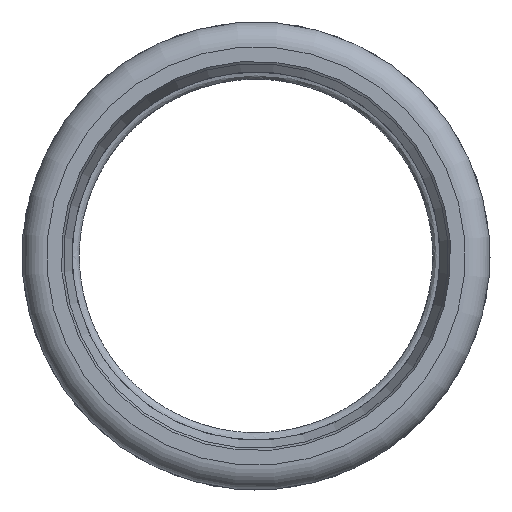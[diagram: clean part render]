
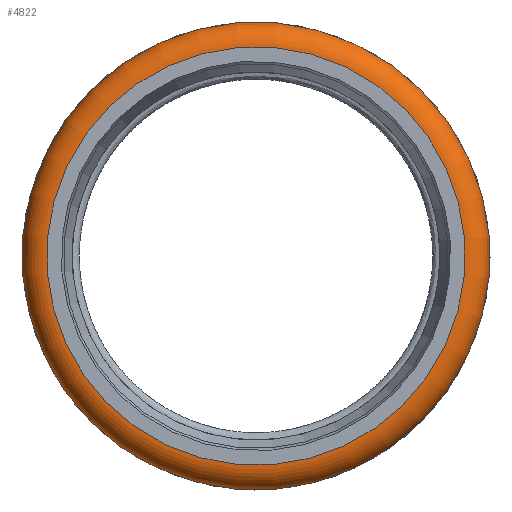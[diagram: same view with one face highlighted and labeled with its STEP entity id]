
A CAD part, left-side view. The second image highlights one B-rep face of the part: STEP entity #4822.
In plain terms, the highlighted toroidal (fillet/blend) face has major radius 59.1 mm and minor radius 7 mm.
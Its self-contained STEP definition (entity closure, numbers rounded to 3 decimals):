
#4736=CARTESIAN_POINT('',(-72.,64.462,0.0));
#4737=VERTEX_POINT('',#4736);
#4738=CARTESIAN_POINT('',(-72.,0.,0.0));
#4739=DIRECTION('',(1.0,0.0,0.0));
#4740=DIRECTION('',(0.0,1.0,0.0));
#4741=AXIS2_PLACEMENT_3D('',#4738,#4739,#4740);
#4742=CIRCLE('',#4741,64.462);
#4743=EDGE_CURVE('',#4737,#4737,#4742,.T.);
#4796=CARTESIAN_POINT('',(-83.5,59.1,0.0));
#4797=VERTEX_POINT('',#4796);
#4798=CARTESIAN_POINT('',(-83.5,0.,0.0));
#4799=DIRECTION('',(1.0,0.0,0.0));
#4800=DIRECTION('',(0.0,1.0,0.0));
#4801=AXIS2_PLACEMENT_3D('',#4798,#4799,#4800);
#4802=CIRCLE('',#4801,59.1);
#4803=EDGE_CURVE('',#4797,#4797,#4802,.T.);
#4811=CARTESIAN_POINT('',(-76.5,0.,0.0));
#4812=DIRECTION('',(1.0,0.,0.0));
#4813=DIRECTION('',(0.0,0.0,-1.0));
#4814=AXIS2_PLACEMENT_3D('',#4811,#4812,#4813);
#4815=TOROIDAL_SURFACE('',#4814,59.1,7.);
#4816=ORIENTED_EDGE('',*,*,#4743,.F.);
#4817=EDGE_LOOP('',(#4816));
#4818=FACE_OUTER_BOUND('',#4817,.T.);
#4819=ORIENTED_EDGE('',*,*,#4803,.T.);
#4820=EDGE_LOOP('',(#4819));
#4821=FACE_BOUND('',#4820,.T.);
#4822=ADVANCED_FACE('',(#4818,#4821),#4815,.T.);
